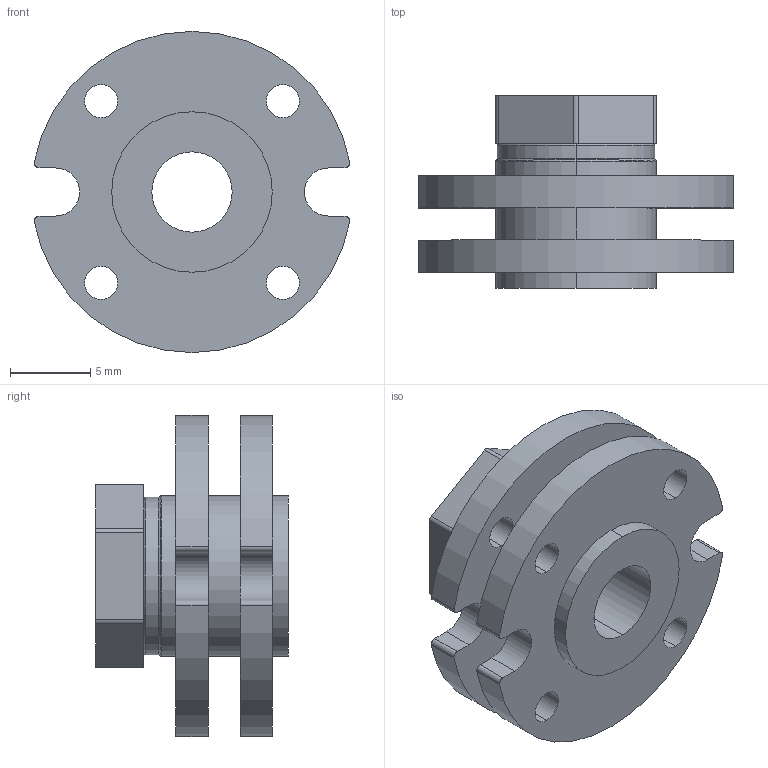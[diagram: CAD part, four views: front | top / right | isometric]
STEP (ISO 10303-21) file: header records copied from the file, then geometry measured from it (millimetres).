
FILE_DESCRIPTION (( 'STEP AP203' ), '1' );
FILE_NAME ('XG11-118.STEP', '2025-03-28T02:39:15', ( '微软用户' ), ( '微软中国' ), 'SwSTEP 2.0', 'SolidWorks 2024', '' );
FILE_SCHEMA (( 'CONFIG_CONTROL_DESIGN' ));
Length unit declared in the file: millimetre
Products named in the file (1): XG11-118
Bounding box: 19.66 x 12 x 20 mm (x, y, z)
Volume: 1553.3 mm3; surface area: 1917.3 mm2
Topology: 1 solids, 1 shells, 84 faces, 217 edges, 142 vertices
Faces by surface type: cylinder 55, plane 23, torus 6
Entity records: 2730 total; most frequent: DIRECTION 507, CARTESIAN_POINT 444, ORIENTED_EDGE 434, EDGE_CURVE 217, AXIS2_PLACEMENT_3D 205, VERTEX_POINT 142, CIRCLE 120, EDGE_LOOP 109
